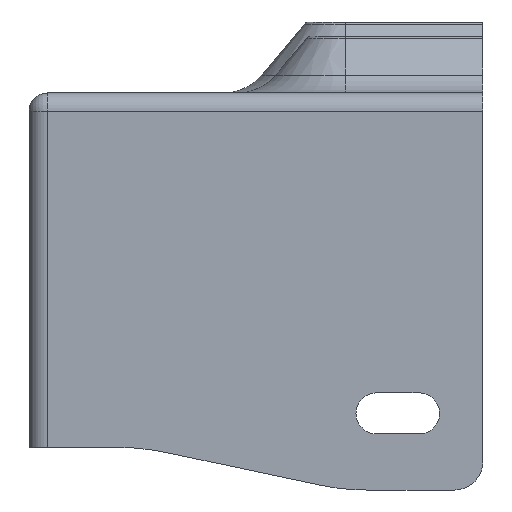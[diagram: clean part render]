
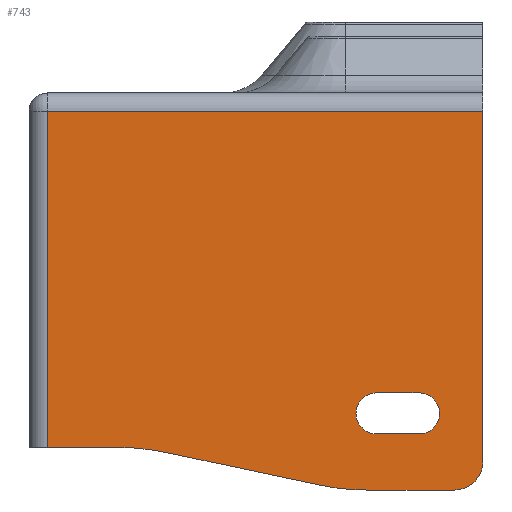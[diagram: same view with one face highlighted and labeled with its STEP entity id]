
A CAD part, left-side view. The second image highlights one B-rep face of the part: STEP entity #743.
In plain terms, the highlighted planar face has unit normal (-1, 0, 0).
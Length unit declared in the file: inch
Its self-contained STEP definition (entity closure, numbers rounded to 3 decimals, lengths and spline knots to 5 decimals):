
#84 = ORIENTED_EDGE ( 'NONE', *, *, #929, .T. ) ;
#105 = AXIS2_PLACEMENT_3D ( 'NONE', #2622, #1248, #4037 ) ;
#119 = LINE ( 'NONE', #647, #1930 ) ;
#219 = VERTEX_POINT ( 'NONE', #732 ) ;
#236 = CARTESIAN_POINT ( 'NONE',  ( -2.33425, -0.53125, 0.42805 ) ) ;
#246 = CARTESIAN_POINT ( 'NONE',  ( -2.33425, -1., 1.75 ) ) ;
#251 = CARTESIAN_POINT ( 'NONE',  ( -2.33425, 0.39719, 0.16565 ) ) ;
#344 = EDGE_CURVE ( 'NONE', #2954, #860, #3715, .T. ) ;
#350 = CARTESIAN_POINT ( 'NONE',  ( -2.33425, 0.6051, 0.1875 ) ) ;
#354 = CIRCLE ( 'NONE', #1585, 0.125 ) ;
#376 = DIRECTION ( 'NONE',  ( 0., 1., 0. ) ) ;
#548 = DIRECTION ( 'NONE',  ( 1., 0., 0. ) ) ;
#590 = AXIS2_PLACEMENT_3D ( 'NONE', #246, #2029, #648 ) ;
#637 = CARTESIAN_POINT ( 'NONE',  ( -2.33425, 0.5, 0.1875 ) ) ;
#644 = VERTEX_POINT ( 'NONE', #1506 ) ;
#647 = CARTESIAN_POINT ( 'NONE',  ( -2.33425, -0.71875, 0.42805 ) ) ;
#648 = DIRECTION ( 'NONE',  ( 0., 0., -1. ) ) ;
#664 = VERTEX_POINT ( 'NONE', #4252 ) ;
#682 = CARTESIAN_POINT ( 'NONE',  ( -2.33425, 1., 0.1875 ) ) ;
#686 = CARTESIAN_POINT ( 'NONE',  ( -2.33425, 0.92, 0.1875 ) ) ;
#698 = EDGE_CURVE ( 'NONE', #2000, #2954, #3724, .T. ) ;
#701 = DIRECTION ( 'NONE',  ( 1., 0., 0. ) ) ;
#719 = DIRECTION ( 'NONE',  ( 1., 0., 0. ) ) ;
#732 = CARTESIAN_POINT ( 'NONE',  ( -2.33425, -0.53125, 0.24695 ) ) ;
#738 = VECTOR ( 'NONE', #2415, 39.37008 ) ;
#743 = ADVANCED_FACE ( 'NONE', ( #3034, #3466 ), #4081, .F. ) ;
#750 = ORIENTED_EDGE ( 'NONE', *, *, #4018, .T. ) ;
#794 = ORIENTED_EDGE ( 'NONE', *, *, #2691, .T. ) ;
#860 = VERTEX_POINT ( 'NONE', #2159 ) ;
#914 = ORIENTED_EDGE ( 'NONE', *, *, #1162, .T. ) ;
#929 = EDGE_CURVE ( 'NONE', #644, #2524, #1980, .T. ) ;
#941 = CIRCLE ( 'NONE', #4451, 0.09055 ) ;
#1021 = CARTESIAN_POINT ( 'NONE',  ( -2.33425, -0.71875, 0.3375 ) ) ;
#1037 = CIRCLE ( 'NONE', #1529, 1. ) ;
#1056 = EDGE_LOOP ( 'NONE', ( #3072, #4429, #3936, #2332, #2650, #2801, #1665, #3391, #84 ) ) ;
#1146 = VERTEX_POINT ( 'NONE', #2760 ) ;
#1162 = EDGE_CURVE ( 'NONE', #219, #1460, #941, .T. ) ;
#1218 = VECTOR ( 'NONE', #1954, 39.37008 ) ;
#1248 = DIRECTION ( 'NONE',  ( -1., 0., 0. ) ) ;
#1432 = DIRECTION ( 'NONE',  ( 0., 0., -1. ) ) ;
#1435 = VECTOR ( 'NONE', #3123, 39.37008 ) ;
#1460 = VERTEX_POINT ( 'NONE', #236 ) ;
#1506 = CARTESIAN_POINT ( 'NONE',  ( -2.33425, 0.92, 1.67 ) ) ;
#1529 = AXIS2_PLACEMENT_3D ( 'NONE', #4315, #548, #3303 ) ;
#1585 = AXIS2_PLACEMENT_3D ( 'NONE', #3394, #3109, #4144 ) ;
#1665 = ORIENTED_EDGE ( 'NONE', *, *, #2396, .F. ) ;
#1873 = DIRECTION ( 'NONE',  ( 0., 0., -1. ) ) ;
#1927 = VECTOR ( 'NONE', #376, 39.37008 ) ;
#1930 = VECTOR ( 'NONE', #2384, 39.37008 ) ;
#1954 = DIRECTION ( 'NONE',  ( 0., 0., -1. ) ) ;
#1980 = LINE ( 'NONE', #2257, #1218 ) ;
#1994 = LINE ( 'NONE', #682, #2523 ) ;
#2000 = VERTEX_POINT ( 'NONE', #3834 ) ;
#2029 = DIRECTION ( 'NONE',  ( 1., 0., 0. ) ) ;
#2159 = CARTESIAN_POINT ( 'NONE',  ( -2.33425, -0.875, 0. ) ) ;
#2207 = CARTESIAN_POINT ( 'NONE',  ( -2.33425, -1., 1.75 ) ) ;
#2225 = EDGE_CURVE ( 'NONE', #2352, #2000, #2782, .T. ) ;
#2240 = CARTESIAN_POINT ( 'NONE',  ( -2.33425, -0.71875, 0.24695 ) ) ;
#2257 = CARTESIAN_POINT ( 'NONE',  ( -2.33425, 0.92, 1.75 ) ) ;
#2332 = ORIENTED_EDGE ( 'NONE', *, *, #698, .T. ) ;
#2352 = VERTEX_POINT ( 'NONE', #251 ) ;
#2360 = VERTEX_POINT ( 'NONE', #2775 ) ;
#2384 = DIRECTION ( 'NONE',  ( 0., -1., 0. ) ) ;
#2396 = EDGE_CURVE ( 'NONE', #2658, #1146, #3692, .T. ) ;
#2415 = DIRECTION ( 'NONE',  ( 0., -0.978, -0.208 ) ) ;
#2523 = VECTOR ( 'NONE', #3099, 39.37008 ) ;
#2524 = VERTEX_POINT ( 'NONE', #686 ) ;
#2538 = VERTEX_POINT ( 'NONE', #350 ) ;
#2622 = CARTESIAN_POINT ( 'NONE',  ( -2.33425, -0.48722, 1. ) ) ;
#2650 = ORIENTED_EDGE ( 'NONE', *, *, #344, .T. ) ;
#2658 = VERTEX_POINT ( 'NONE', #3376 ) ;
#2669 = LINE ( 'NONE', #2240, #1435 ) ;
#2684 = CIRCLE ( 'NONE', #3374, 0.09055 ) ;
#2691 = EDGE_CURVE ( 'NONE', #664, #2360, #2684, .T. ) ;
#2760 = CARTESIAN_POINT ( 'NONE',  ( -2.33425, -1., 0.125 ) ) ;
#2775 = CARTESIAN_POINT ( 'NONE',  ( -2.33425, -0.71875, 0.24695 ) ) ;
#2782 = LINE ( 'NONE', #637, #738 ) ;
#2801 = ORIENTED_EDGE ( 'NONE', *, *, #3904, .T. ) ;
#2832 = DIRECTION ( 'NONE',  ( 0., -1., 0. ) ) ;
#2833 = LINE ( 'NONE', #4150, #1927 ) ;
#2836 = VECTOR ( 'NONE', #1873, 39.37008 ) ;
#2887 = EDGE_CURVE ( 'NONE', #2524, #2538, #1994, .T. ) ;
#2954 = VERTEX_POINT ( 'NONE', #4438 ) ;
#3034 = FACE_BOUND ( 'NONE', #4115, .T. ) ;
#3072 = ORIENTED_EDGE ( 'NONE', *, *, #2887, .T. ) ;
#3099 = DIRECTION ( 'NONE',  ( 0., -1., 0. ) ) ;
#3109 = DIRECTION ( 'NONE',  ( -1., 0., 0. ) ) ;
#3123 = DIRECTION ( 'NONE',  ( 0., 1., 0. ) ) ;
#3295 = EDGE_CURVE ( 'NONE', #2538, #2352, #1037, .T. ) ;
#3303 = DIRECTION ( 'NONE',  ( 0., 0., -1. ) ) ;
#3374 = AXIS2_PLACEMENT_3D ( 'NONE', #1021, #719, #1432 ) ;
#3376 = CARTESIAN_POINT ( 'NONE',  ( -2.33425, -1., 1.67 ) ) ;
#3391 = ORIENTED_EDGE ( 'NONE', *, *, #4120, .T. ) ;
#3394 = CARTESIAN_POINT ( 'NONE',  ( -2.33425, -0.875, 0.125 ) ) ;
#3466 = FACE_OUTER_BOUND ( 'NONE', #1056, .T. ) ;
#3692 = LINE ( 'NONE', #2207, #2836 ) ;
#3715 = LINE ( 'NONE', #3892, #4055 ) ;
#3724 = CIRCLE ( 'NONE', #105, 1. ) ;
#3764 = DIRECTION ( 'NONE',  ( 0., 0., -1. ) ) ;
#3834 = CARTESIAN_POINT ( 'NONE',  ( -2.33425, -0.27931, 0.02185 ) ) ;
#3892 = CARTESIAN_POINT ( 'NONE',  ( -2.33425, -1., 0. ) ) ;
#3904 = EDGE_CURVE ( 'NONE', #860, #1146, #354, .T. ) ;
#3936 = ORIENTED_EDGE ( 'NONE', *, *, #2225, .T. ) ;
#4018 = EDGE_CURVE ( 'NONE', #1460, #664, #119, .T. ) ;
#4037 = DIRECTION ( 'NONE',  ( 0., 0., -1. ) ) ;
#4055 = VECTOR ( 'NONE', #2832, 39.37008 ) ;
#4081 = PLANE ( 'NONE',  #590 ) ;
#4115 = EDGE_LOOP ( 'NONE', ( #750, #794, #4371, #914 ) ) ;
#4120 = EDGE_CURVE ( 'NONE', #2658, #644, #2833, .T. ) ;
#4144 = DIRECTION ( 'NONE',  ( 0., 0., -1. ) ) ;
#4148 = CARTESIAN_POINT ( 'NONE',  ( -2.33425, -0.53125, 0.3375 ) ) ;
#4150 = CARTESIAN_POINT ( 'NONE',  ( -2.33425, -1., 1.67 ) ) ;
#4252 = CARTESIAN_POINT ( 'NONE',  ( -2.33425, -0.71875, 0.42805 ) ) ;
#4315 = CARTESIAN_POINT ( 'NONE',  ( -2.33425, 0.6051, -0.8125 ) ) ;
#4321 = EDGE_CURVE ( 'NONE', #2360, #219, #2669, .T. ) ;
#4371 = ORIENTED_EDGE ( 'NONE', *, *, #4321, .T. ) ;
#4429 = ORIENTED_EDGE ( 'NONE', *, *, #3295, .T. ) ;
#4438 = CARTESIAN_POINT ( 'NONE',  ( -2.33425, -0.48722, 0. ) ) ;
#4451 = AXIS2_PLACEMENT_3D ( 'NONE', #4148, #701, #3764 ) ;
